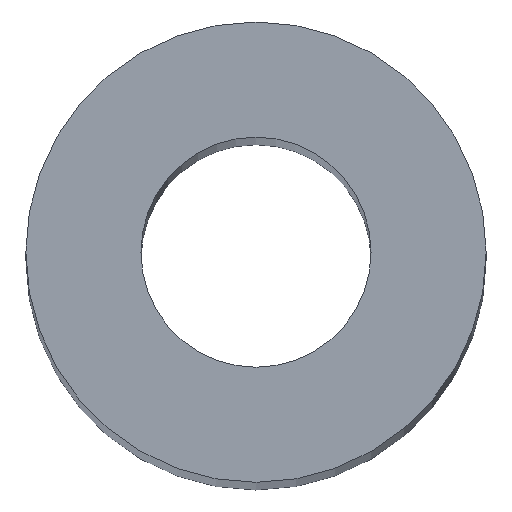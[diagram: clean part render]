
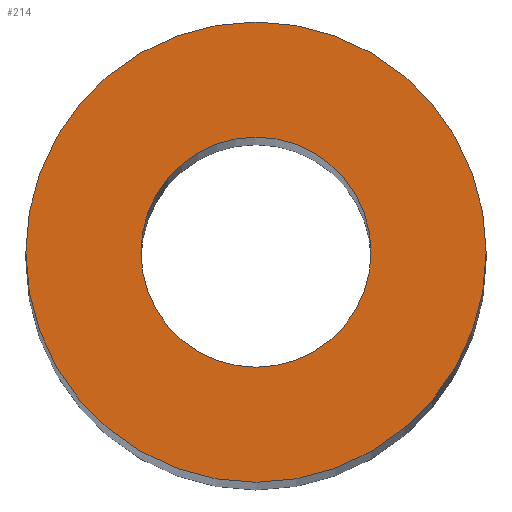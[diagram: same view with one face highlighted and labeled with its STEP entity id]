
A CAD part, top view. The second image highlights one B-rep face of the part: STEP entity #214.
In plain terms, the highlighted planar face has unit normal (0, 0, 1).
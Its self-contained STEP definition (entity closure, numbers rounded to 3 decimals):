
#4 = EDGE_LOOP ( 'NONE', ( #146, #16 ) ) ;
#5 = DIRECTION ( 'NONE',  ( 0., 0., 1. ) ) ;
#7 = DIRECTION ( 'NONE',  ( 1., 0., 0. ) ) ;
#10 = DIRECTION ( 'NONE',  ( 0., 0., 1. ) ) ;
#12 = VERTEX_POINT ( 'NONE', #212 ) ;
#16 = ORIENTED_EDGE ( 'NONE', *, *, #38, .T. ) ;
#23 = DIRECTION ( 'NONE',  ( 0., 0., 1. ) ) ;
#27 = CARTESIAN_POINT ( 'NONE',  ( 8., 0., 305. ) ) ;
#38 = EDGE_CURVE ( 'NONE', #93, #12, #129, .T. ) ;
#42 = CARTESIAN_POINT ( 'NONE',  ( 0., 0., 305. ) ) ;
#46 = ORIENTED_EDGE ( 'NONE', *, *, #186, .F. ) ;
#48 = CIRCLE ( 'NONE', #165, 8. ) ;
#52 = EDGE_LOOP ( 'NONE', ( #46, #101 ) ) ;
#66 = CARTESIAN_POINT ( 'NONE',  ( 16., 0., 305. ) ) ;
#76 = VERTEX_POINT ( 'NONE', #115 ) ;
#93 = VERTEX_POINT ( 'NONE', #66 ) ;
#95 = AXIS2_PLACEMENT_3D ( 'NONE', #183, #23, #117 ) ;
#100 = AXIS2_PLACEMENT_3D ( 'NONE', #119, #103, #137 ) ;
#101 = ORIENTED_EDGE ( 'NONE', *, *, #169, .F. ) ;
#103 = DIRECTION ( 'NONE',  ( 0., 0., 1. ) ) ;
#105 = VERTEX_POINT ( 'NONE', #27 ) ;
#106 = DIRECTION ( 'NONE',  ( 1., 0., 0. ) ) ;
#115 = CARTESIAN_POINT ( 'NONE',  ( -8., 0., 305. ) ) ;
#117 = DIRECTION ( 'NONE',  ( 1., 0., 0. ) ) ;
#119 = CARTESIAN_POINT ( 'NONE',  ( 0., 0., 305. ) ) ;
#124 = CARTESIAN_POINT ( 'NONE',  ( 0., 0., 305. ) ) ;
#129 = CIRCLE ( 'NONE', #95, 16. ) ;
#136 = FACE_OUTER_BOUND ( 'NONE', #4, .T. ) ;
#137 = DIRECTION ( 'NONE',  ( 1., 0., 0. ) ) ;
#144 = CIRCLE ( 'NONE', #176, 16. ) ;
#146 = ORIENTED_EDGE ( 'NONE', *, *, #195, .T. ) ;
#158 = PLANE ( 'NONE',  #100 ) ;
#163 = CIRCLE ( 'NONE', #185, 8. ) ;
#164 = DIRECTION ( 'NONE',  ( 0., 0., 1. ) ) ;
#165 = AXIS2_PLACEMENT_3D ( 'NONE', #124, #5, #106 ) ;
#169 = EDGE_CURVE ( 'NONE', #105, #76, #163, .T. ) ;
#173 = FACE_BOUND ( 'NONE', #52, .T. ) ;
#176 = AXIS2_PLACEMENT_3D ( 'NONE', #199, #10, #7 ) ;
#183 = CARTESIAN_POINT ( 'NONE',  ( 0., 0., 305. ) ) ;
#185 = AXIS2_PLACEMENT_3D ( 'NONE', #42, #164, #202 ) ;
#186 = EDGE_CURVE ( 'NONE', #76, #105, #48, .T. ) ;
#195 = EDGE_CURVE ( 'NONE', #12, #93, #144, .T. ) ;
#199 = CARTESIAN_POINT ( 'NONE',  ( 0., 0., 305. ) ) ;
#202 = DIRECTION ( 'NONE',  ( 1., 0., 0. ) ) ;
#212 = CARTESIAN_POINT ( 'NONE',  ( -16., 0., 305. ) ) ;
#214 = ADVANCED_FACE ( 'NONE', ( #136, #173 ), #158, .T. ) ;
